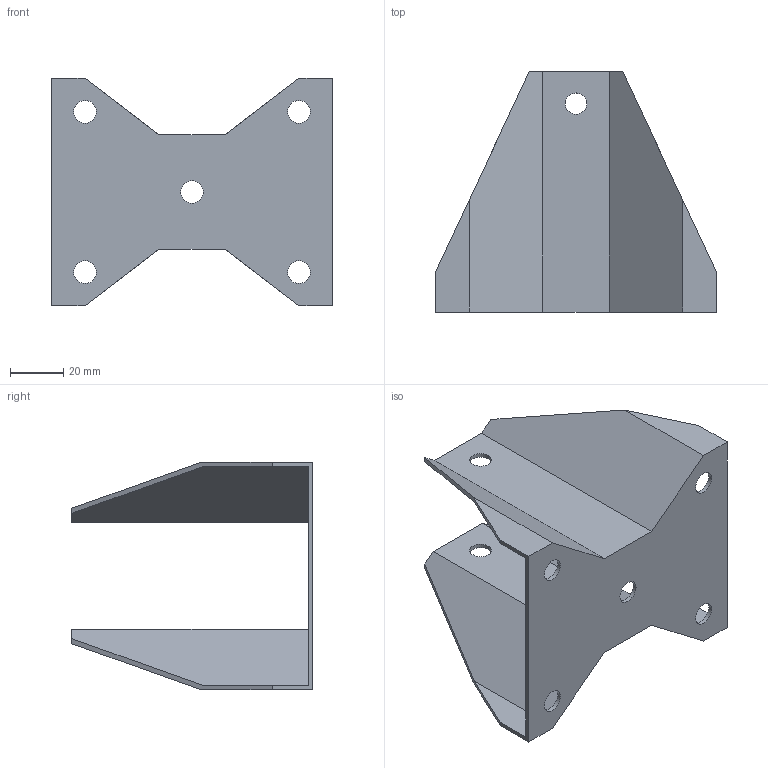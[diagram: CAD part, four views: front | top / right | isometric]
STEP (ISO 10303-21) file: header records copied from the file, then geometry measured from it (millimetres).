
FILE_DESCRIPTION((''),'2;1');
FILE_NAME('RUF100N_2','2002-12-27T',('Lipro doo'),('Lipro d.o.o.'),'PRO/ENGINEER BY PARAMETRIC TECHNOLOGY CORPORATION, 2001150','PRO/ENGINEER BY PARAMETRIC TECHNOLOGY CORPORATION, 2001150','');
FILE_SCHEMA(('CONFIG_CONTROL_DESIGN'));
Length unit declared in the file: millimetre
Products named in the file (1): RUF100N_2
Bounding box: 105 x 90 x 85 mm (x, y, z)
Volume: 32417.4 mm3; surface area: 44527.1 mm2
Topology: 1 solids, 1 shells, 44 faces, 126 edges, 84 vertices
Faces by surface type: plane 30, cylinder 14
Entity records: 1504 total; most frequent: CARTESIAN_POINT 254, ORIENTED_EDGE 252, DIRECTION 242, EDGE_CURVE 126, VECTOR 98, LINE 98, VERTEX_POINT 84, AXIS2_PLACEMENT_3D 72
